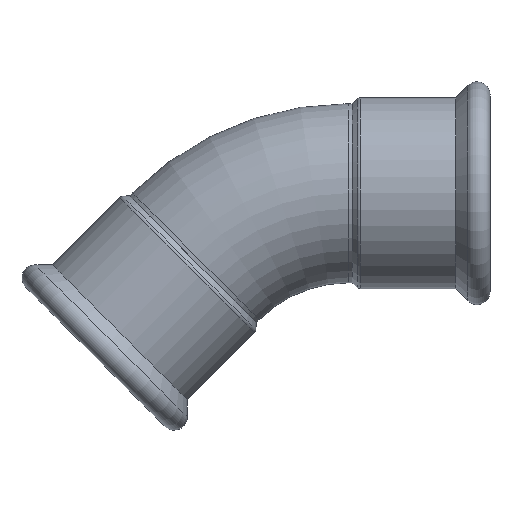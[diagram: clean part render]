
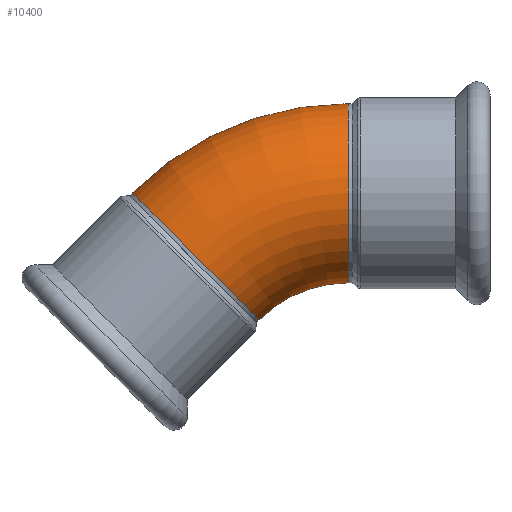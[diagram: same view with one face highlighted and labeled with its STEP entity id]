
A CAD part, top view. The second image highlights one B-rep face of the part: STEP entity #10400.
In plain terms, the highlighted toroidal (fillet/blend) face has major radius 91.3 mm and minor radius 38 mm.
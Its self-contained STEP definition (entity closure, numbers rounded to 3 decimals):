
#4490=CARTESIAN_POINT('',(-88.611,0.129,
0.));
#4500=VERTEX_POINT('',#4490);
#4660=CARTESIAN_POINT('',(-34.871,-53.611,0.));
#4670=VERTEX_POINT('',#4660);
#4700=CARTESIAN_POINT('',(-61.741,-26.741,0.));
#4710=DIRECTION('',(-0.707,-0.707,0.));
#4720=DIRECTION('',(0.707,-0.707,0.));
#4730=AXIS2_PLACEMENT_3D('',#4700,#4710,#4720);
#4740=CIRCLE('',#4730,38.);
#6220=CARTESIAN_POINT('',(2.818,-38.,0.));
#6230=VERTEX_POINT('',#6220);
#6310=CARTESIAN_POINT('',(2.818,38.,0.));
#6320=VERTEX_POINT('',#6310);
#7780=CARTESIAN_POINT('',(2.818,-91.3,0.));
#7790=DIRECTION('',(0.,0.,1.));
#7800=DIRECTION('',(0.,1.,0.));
#7810=AXIS2_PLACEMENT_3D('',#7780,#7790,#7800);
#7820=TOROIDAL_SURFACE('',#7810,91.3,38.);
#7840=CARTESIAN_POINT('',(2.818,-91.3,0.));
#7850=DIRECTION('',(0.,0.,1.));
#7860=DIRECTION('',(0.,1.,0.));
#7870=AXIS2_PLACEMENT_3D('',#7840,#7850,#7860);
#7880=CIRCLE('',#7870,53.3);
#7890=EDGE_CURVE('',#6230,#4670,#7880,.T.);
#7920=CARTESIAN_POINT('',(2.818,-91.3,0.));
#7930=DIRECTION('',(0.,0.,1.));
#7940=DIRECTION('',(0.,1.,0.));
#7950=AXIS2_PLACEMENT_3D('',#7920,#7930,#7940);
#7960=CIRCLE('',#7950,129.3);
#7970=EDGE_CURVE('',#6320,#4500,#7960,.T.);
#10270=EDGE_CURVE('',#4670,#4500,#4740,.T.);
#10280=ORIENTED_EDGE('',*,*,#10270,.F.);
#10290=ORIENTED_EDGE('',*,*,#7970,.T.);
#10300=CARTESIAN_POINT('',(2.818,0.,0.));
#10310=DIRECTION('',(-1.,0.,0.));
#10320=DIRECTION('',(0.,-1.,0.));
#10330=AXIS2_PLACEMENT_3D('',#10300,#10310,#10320);
#10340=CIRCLE('',#10330,38.);
#10350=EDGE_CURVE('',#6230,#6320,#10340,.T.);
#10360=ORIENTED_EDGE('',*,*,#10350,.T.);
#10370=ORIENTED_EDGE('',*,*,#7890,.F.);
#10380=EDGE_LOOP('',(#10370,#10360,#10290,#10280));
#10390=FACE_OUTER_BOUND('',#10380,.T.);
#10400=ADVANCED_FACE('',(#10390),#7820,.T.);
